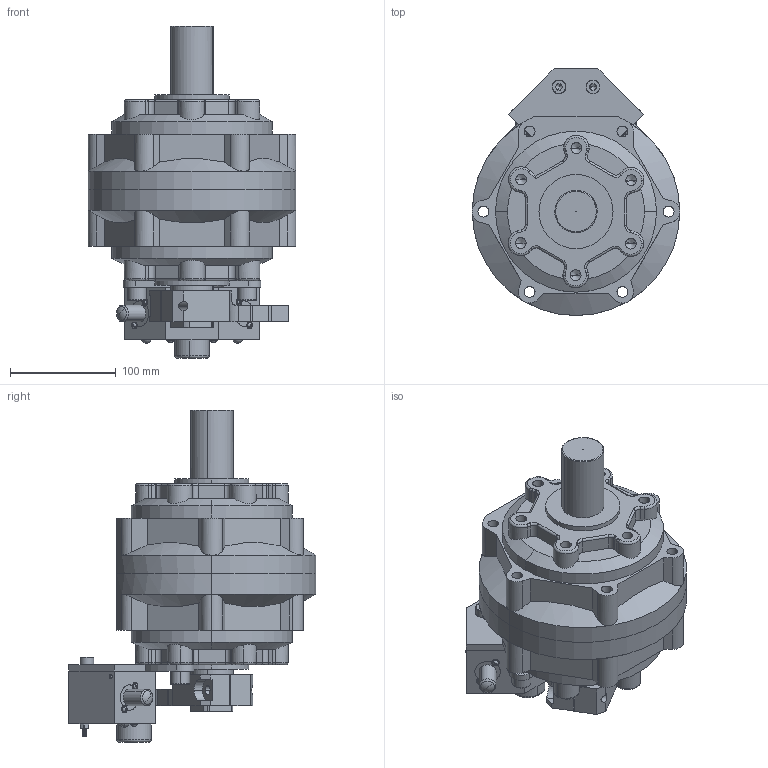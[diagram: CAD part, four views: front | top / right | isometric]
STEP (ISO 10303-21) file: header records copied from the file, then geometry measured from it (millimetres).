
FILE_DESCRIPTION (( 'STEP AP203' ), '1' );
FILE_NAME ('PRN800-#-#-#-#-CR.STEP', '2016-01-14T16:51:47', ( '' ), ( '' ), 'SwSTEP 2.0', 'SolidWorks 2014', '' );
FILE_SCHEMA (( 'CONFIG_CONTROL_DESIGN' ));
Length unit declared in the file: millimetre
Products named in the file (19): 800-300-150-六孔螺帽2; 800-300-150-零件4; mark-PRN800; PRN800 (3); 800-M12螺絲; PRN800 (2); 800-300-150-M8螺絲墊片; 800-300-150-圓頂-2; 800-300-150-螺帽; 800-300-150-M8螺絲; 800-300-150-邊底座; 800-300-PRO-CR1-150; PRN800 (1); 800-300-150-活動珠身體; 800-300-150-螺絲; PRN800-#-#-#-#-CR; 800-300-150-PRN50-CR; 800-300-150-PRO-CR2; CRN-800
Assembly tree (32 placements, depth 3):
  PRN800-#-#-#-#-CR
    PRN800 (1)
    PRN800 (2)
    PRN800 (3)
    mark-PRN800
    800-300-150-PRN50-CR
      800-300-PRO-CR1-150
      800-300-150-PRO-CR2
      800-300-150-零件4
      800-300-150-螺絲  x2
      800-300-150-M8螺絲  x2
      800-300-150-活動珠身體  x2
      800-300-150-邊底座  x2
      800-300-150-圓頂-2  x3
      800-300-150-M8螺絲墊片  x2
      800-300-150-六孔螺帽2  x6
      800-300-150-螺帽  x2
      800-M12螺絲  x2
    CRN-800
Bounding box: 196 x 233.5 x 313.5 mm (x, y, z)
Volume: 4298666.4 mm3; surface area: 392385.7 mm2
Topology: 37 solids, 37 shells, 993 faces, 2452 edges, 1537 vertices
Faces by surface type: plane 407, cylinder 370, torus 89, cone 81, bspline 24, sphere 22
Entity records: 29925 total; most frequent: CARTESIAN_POINT 9038, DIRECTION 4037, ORIENTED_EDGE 3764, EDGE_CURVE 1882, AXIS2_PLACEMENT_3D 1550, VERTEX_POINT 1198, VECTOR 937, LINE 937
